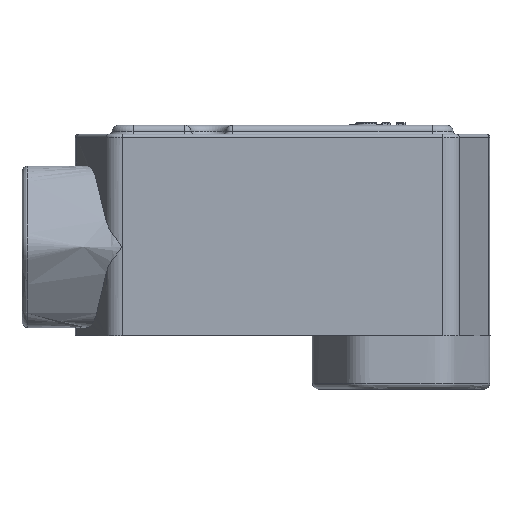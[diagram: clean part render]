
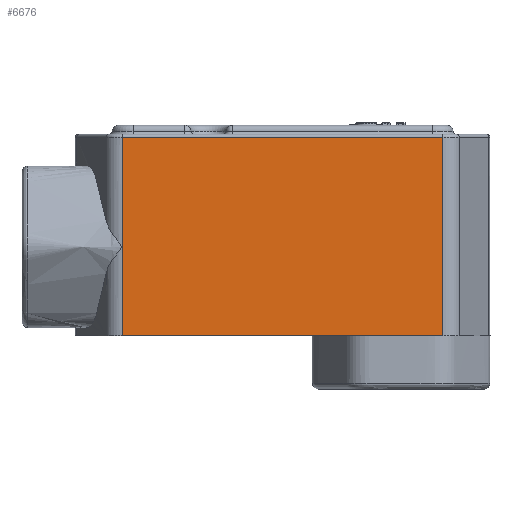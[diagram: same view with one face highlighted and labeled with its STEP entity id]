
A CAD part, front view. The second image highlights one B-rep face of the part: STEP entity #6676.
In plain terms, the highlighted planar face has unit normal (0, -1, 0).
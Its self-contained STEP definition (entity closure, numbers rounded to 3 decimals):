
#63 = DIRECTION ( 'NONE',  ( -1., 0., 0. ) ) ;
#124 = FACE_OUTER_BOUND ( 'NONE', #16360, .T. ) ;
#2866 = CARTESIAN_POINT ( 'NONE',  ( 40.878, 146.148, -30. ) ) ;
#3357 = ORIENTED_EDGE ( 'NONE', *, *, #14582, .F. ) ;
#3952 = EDGE_CURVE ( 'NONE', #17272, #10711, #13202, .T. ) ;
#5224 = PLANE ( 'NONE',  #16279 ) ;
#5387 = CARTESIAN_POINT ( 'NONE',  ( 94.937, 146.148, -30. ) ) ;
#5427 = CARTESIAN_POINT ( 'NONE',  ( -13.181, 146.148, 37. ) ) ;
#5461 = CARTESIAN_POINT ( 'NONE',  ( 40.878, 146.148, 30. ) ) ;
#6676 = ADVANCED_FACE ( 'NONE', ( #124 ), #5224, .F. ) ;
#6845 = DIRECTION ( 'NONE',  ( 1., 0., 0. ) ) ;
#6890 = EDGE_CURVE ( 'NONE', #11511, #17272, #9732, .T. ) ;
#7027 = DIRECTION ( 'NONE',  ( 0., 0., -1. ) ) ;
#7254 = ORIENTED_EDGE ( 'NONE', *, *, #3952, .T. ) ;
#7276 = LINE ( 'NONE', #12364, #10504 ) ;
#8539 = ORIENTED_EDGE ( 'NONE', *, *, #6890, .T. ) ;
#9121 = CARTESIAN_POINT ( 'NONE',  ( 94.937, 146.148, 37. ) ) ;
#9280 = ORIENTED_EDGE ( 'NONE', *, *, #11445, .T. ) ;
#9657 = DIRECTION ( 'NONE',  ( 1., 0., 0. ) ) ;
#9727 = CARTESIAN_POINT ( 'NONE',  ( -13.181, 146.148, 30. ) ) ;
#9732 = LINE ( 'NONE', #9727, #16992 ) ;
#10062 = CARTESIAN_POINT ( 'NONE',  ( -13.181, 146.148, -30. ) ) ;
#10504 = VECTOR ( 'NONE', #63, 1000. ) ;
#10711 = VERTEX_POINT ( 'NONE', #5387 ) ;
#11036 = LINE ( 'NONE', #15130, #15274 ) ;
#11053 = VECTOR ( 'NONE', #9657, 1000. ) ;
#11445 = EDGE_CURVE ( 'NONE', #12753, #11511, #7276, .T. ) ;
#11511 = VERTEX_POINT ( 'NONE', #5427 ) ;
#12364 = CARTESIAN_POINT ( 'NONE',  ( -13.181, 146.148, 37. ) ) ;
#12753 = VERTEX_POINT ( 'NONE', #9121 ) ;
#13202 = LINE ( 'NONE', #2866, #11053 ) ;
#13715 = DIRECTION ( 'NONE',  ( 0., 0., -1. ) ) ;
#14582 = EDGE_CURVE ( 'NONE', #12753, #10711, #11036, .T. ) ;
#15130 = CARTESIAN_POINT ( 'NONE',  ( 94.937, 146.148, 30. ) ) ;
#15274 = VECTOR ( 'NONE', #13715, 1000. ) ;
#16279 = AXIS2_PLACEMENT_3D ( 'NONE', #5461, #17594, #6845 ) ;
#16360 = EDGE_LOOP ( 'NONE', ( #7254, #3357, #9280, #8539 ) ) ;
#16992 = VECTOR ( 'NONE', #7027, 1000. ) ;
#17272 = VERTEX_POINT ( 'NONE', #10062 ) ;
#17594 = DIRECTION ( 'NONE',  ( 0., 1., 0. ) ) ;
